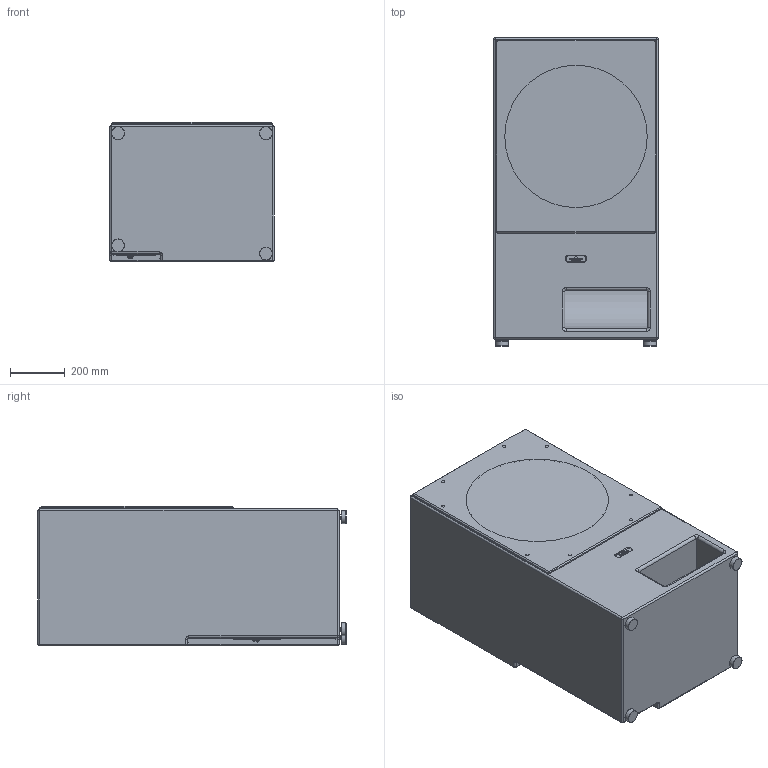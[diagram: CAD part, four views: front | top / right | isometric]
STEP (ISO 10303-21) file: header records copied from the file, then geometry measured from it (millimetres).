
FILE_DESCRIPTION(/* description */ ('','CAx-IF Rec.Pracs.---Representation and Presentation of Product Manufacturing Information (PMI)---4.0---2014-10-13'),/* implementation_level */ '2;1');
FILE_NAME(/* name */ '3D_THE21 SUB PRO PASSIVE VENTED_Public_SI v1.step',/* time_stamp */ '2025-01-29T20:05:48+01:00',/* author */ (''),/* organization */ (''),/* preprocessor_version */ 'ST-DEVELOPER v20',/* originating_system */ 'Autodesk Translation Framework v13.20.0.188',/* authorisation */ '');
FILE_SCHEMA (('AP242_MANAGED_MODEL_BASED_3D_ENGINEERING_MIM_LF { 1 0 10303 442 1 1 4 }'));
Products named in the file (3): The21 SUB PRO vented_MDF; COMBINE_FullSpeaker; COMBINE_GrilleFrame_Cloth
Assembly tree (2 placements, depth 2):
  The21 SUB PRO vented_MDF
    COMBINE_FullSpeaker
    COMBINE_GrilleFrame_Cloth
Bounding box: 600 x 1125 x 510.2 mm (x, y, z)
Volume: 297753417.2 mm3; surface area: 4649193 mm2
Topology: 17 solids, 50 shells, 2451 faces, 6400 edges, 4180 vertices
Faces by surface type: plane 1180, cylinder 515, bspline 489, torus 142, cone 102, sphere 23
Full cylindrical faces by diameter (mm): 1.2 x4, 2 x18, 3 x10, 4.5 x6, 5 x1, 5.5 x6, 6 x8, 6.779 x1, 8 x8, 10 x9, 10.3 x9, 12 x18, 14 x1, 14.9 x1, 17.6 x1, 21 x1, 23.6 x3, 24 x2, 24.25 x1, 25.9 x1, 26.5 x1, 47 x4, 166 x1, 497 x1, 512 x1, 539.4 x1, 548 x1
Entity records: 82112 total; most frequent: CARTESIAN_POINT 22257, ORIENTED_EDGE 12810, DIRECTION 11569, EDGE_CURVE 6405, VERTEX_POINT 4181, AXIS2_PLACEMENT_3D 3968, LINE 3633, VECTOR 3633
